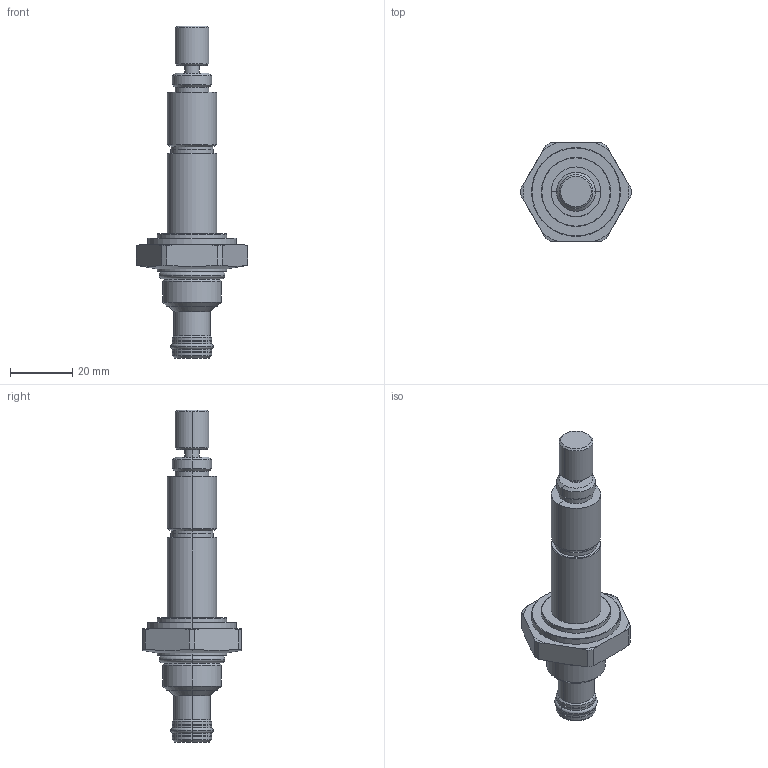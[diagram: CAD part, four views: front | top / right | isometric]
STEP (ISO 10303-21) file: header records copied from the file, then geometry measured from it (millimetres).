
FILE_DESCRIPTION((''),'2;1');
FILE_NAME('SV58-2XM','2014-04-10T',('mg1'),(''),'PRO/ENGINEER BY PARAMETRIC TECHNOLOGY CORPORATION, 2013230','PRO/ENGINEER BY PARAMETRIC TECHNOLOGY CORPORATION, 2013230','');
FILE_SCHEMA(('CONFIG_CONTROL_DESIGN'));
Length unit declared in the file: millimetre
Products named in the file (1): SV58-2XM
Bounding box: 35.69 x 31.75 x 106.56 mm (x, y, z)
Volume: 24613.1 mm3; surface area: 7649.9 mm2
Topology: 1 solids, 1 shells, 132 faces, 284 edges, 166 vertices
Faces by surface type: cylinder 54, cone 42, plane 20, torus 12, revolution 4
Entity records: 3695 total; most frequent: CARTESIAN_POINT 715, DIRECTION 682, ORIENTED_EDGE 568, AXIS2_PLACEMENT_3D 288, EDGE_CURVE 284, VERTEX_POINT 166, CIRCLE 160, EDGE_LOOP 144
